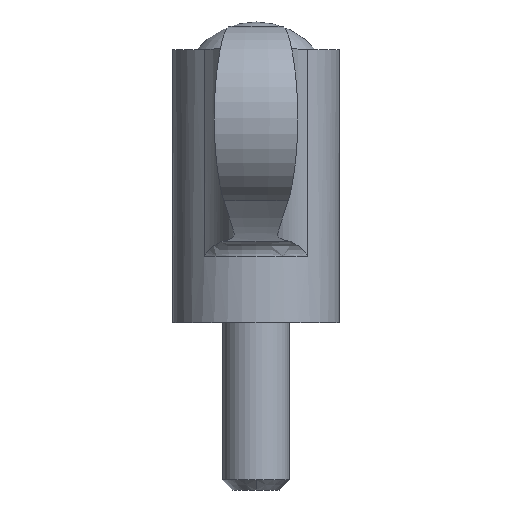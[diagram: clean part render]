
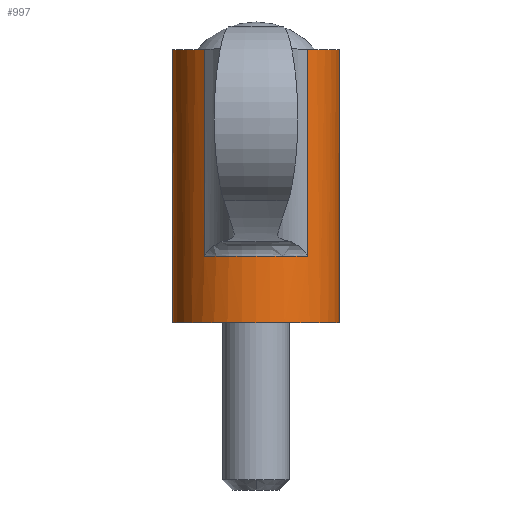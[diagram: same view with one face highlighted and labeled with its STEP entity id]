
A CAD part, left-side view. The second image highlights one B-rep face of the part: STEP entity #997.
In plain terms, the highlighted cylindrical face has radius 10 mm (diameter 20 mm), a partial arc.
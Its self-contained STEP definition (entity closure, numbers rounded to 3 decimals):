
#14 = CARTESIAN_POINT ( 'NONE',  ( 0., 10., 0. ) ) ;
#15 = ORIENTED_EDGE ( 'NONE', *, *, #443, .T. ) ;
#20 = VERTEX_POINT ( 'NONE', #14 ) ;
#31 = VECTOR ( 'NONE', #1305, 1000. ) ;
#66 = CARTESIAN_POINT ( 'NONE',  ( -7.872, 6.167, 8. ) ) ;
#96 = ORIENTED_EDGE ( 'NONE', *, *, #1558, .F. ) ;
#105 = DIRECTION ( 'NONE',  ( 0., 0., -1. ) ) ;
#139 = CARTESIAN_POINT ( 'NONE',  ( 0., 0., -2.331 ) ) ;
#162 = CARTESIAN_POINT ( 'NONE',  ( -7.872, -6.167, 32.697 ) ) ;
#179 = CIRCLE ( 'NONE', #1339, 10. ) ;
#226 = CARTESIAN_POINT ( 'NONE',  ( 0., -10., -2.331 ) ) ;
#350 = DIRECTION ( 'NONE',  ( 0., -1., 0. ) ) ;
#385 = CIRCLE ( 'NONE', #1740, 10. ) ;
#404 = VERTEX_POINT ( 'NONE', #947 ) ;
#419 = AXIS2_PLACEMENT_3D ( 'NONE', #1577, #105, #677 ) ;
#421 = CARTESIAN_POINT ( 'NONE',  ( -7.872, -6.167, -20. ) ) ;
#443 = EDGE_CURVE ( 'NONE', #612, #404, #1513, .T. ) ;
#484 = CIRCLE ( 'NONE', #1562, 10. ) ;
#548 = DIRECTION ( 'NONE',  ( 0., 0., 1. ) ) ;
#599 = AXIS2_PLACEMENT_3D ( 'NONE', #139, #1181, #1896 ) ;
#612 = VERTEX_POINT ( 'NONE', #66 ) ;
#649 = EDGE_CURVE ( 'NONE', #906, #982, #1287, .T. ) ;
#655 = CARTESIAN_POINT ( 'NONE',  ( 0., 0., 32.697 ) ) ;
#677 = DIRECTION ( 'NONE',  ( 0., -1., 0. ) ) ;
#681 = ORIENTED_EDGE ( 'NONE', *, *, #785, .T. ) ;
#727 = ORIENTED_EDGE ( 'NONE', *, *, #1580, .F. ) ;
#785 = EDGE_CURVE ( 'NONE', #1377, #20, #1588, .T. ) ;
#799 = DIRECTION ( 'NONE',  ( 0., 0., -1. ) ) ;
#836 = CARTESIAN_POINT ( 'NONE',  ( -7.872, -6.167, 8. ) ) ;
#848 = CARTESIAN_POINT ( 'NONE',  ( 0., 10., -2.331 ) ) ;
#870 = FACE_OUTER_BOUND ( 'NONE', #1484, .T. ) ;
#873 = EDGE_CURVE ( 'NONE', #906, #612, #484, .T. ) ;
#906 = VERTEX_POINT ( 'NONE', #836 ) ;
#908 = ORIENTED_EDGE ( 'NONE', *, *, #1638, .T. ) ;
#924 = CARTESIAN_POINT ( 'NONE',  ( 0., 0., 8. ) ) ;
#947 = CARTESIAN_POINT ( 'NONE',  ( -7.872, 6.167, 32.697 ) ) ;
#982 = VERTEX_POINT ( 'NONE', #162 ) ;
#997 = ADVANCED_FACE ( 'NONE', ( #870 ), #1452, .T. ) ;
#1074 = DIRECTION ( 'NONE',  ( 0., 0., -1. ) ) ;
#1181 = DIRECTION ( 'NONE',  ( 0., 0., -1. ) ) ;
#1189 = CARTESIAN_POINT ( 'NONE',  ( 0., -10., 32.697 ) ) ;
#1237 = ORIENTED_EDGE ( 'NONE', *, *, #1852, .T. ) ;
#1242 = DIRECTION ( 'NONE',  ( 0., 0., -1. ) ) ;
#1285 = CARTESIAN_POINT ( 'NONE',  ( 0., -10., 0. ) ) ;
#1287 = LINE ( 'NONE', #421, #1342 ) ;
#1305 = DIRECTION ( 'NONE',  ( 0., 0., -1. ) ) ;
#1339 = AXIS2_PLACEMENT_3D ( 'NONE', #655, #1074, #350 ) ;
#1342 = VECTOR ( 'NONE', #548, 1000. ) ;
#1377 = VERTEX_POINT ( 'NONE', #1639 ) ;
#1392 = DIRECTION ( 'NONE',  ( 0., 1., 0. ) ) ;
#1393 = CARTESIAN_POINT ( 'NONE',  ( 0., 0., 0. ) ) ;
#1401 = VECTOR ( 'NONE', #799, 1000. ) ;
#1409 = VERTEX_POINT ( 'NONE', #1189 ) ;
#1452 = CYLINDRICAL_SURFACE ( 'NONE', #599, 10. ) ;
#1484 = EDGE_LOOP ( 'NONE', ( #96, #908, #1610, #1746, #15, #1237, #681, #727 ) ) ;
#1513 = LINE ( 'NONE', #1828, #1743 ) ;
#1540 = DIRECTION ( 'NONE',  ( 0., 1., 0. ) ) ;
#1558 = EDGE_CURVE ( 'NONE', #1409, #1666, #1568, .T. ) ;
#1562 = AXIS2_PLACEMENT_3D ( 'NONE', #924, #1242, #1392 ) ;
#1568 = LINE ( 'NONE', #226, #1401 ) ;
#1577 = CARTESIAN_POINT ( 'NONE',  ( 0., 0., 32.697 ) ) ;
#1580 = EDGE_CURVE ( 'NONE', #1666, #20, #385, .T. ) ;
#1588 = LINE ( 'NONE', #848, #31 ) ;
#1610 = ORIENTED_EDGE ( 'NONE', *, *, #649, .F. ) ;
#1638 = EDGE_CURVE ( 'NONE', #1409, #982, #1646, .T. ) ;
#1639 = CARTESIAN_POINT ( 'NONE',  ( 0., 10., 32.697 ) ) ;
#1646 = CIRCLE ( 'NONE', #419, 10. ) ;
#1665 = DIRECTION ( 'NONE',  ( 0., 0., 1. ) ) ;
#1666 = VERTEX_POINT ( 'NONE', #1285 ) ;
#1740 = AXIS2_PLACEMENT_3D ( 'NONE', #1393, #1847, #1540 ) ;
#1743 = VECTOR ( 'NONE', #1665, 1000. ) ;
#1746 = ORIENTED_EDGE ( 'NONE', *, *, #873, .T. ) ;
#1828 = CARTESIAN_POINT ( 'NONE',  ( -7.872, 6.167, -20. ) ) ;
#1847 = DIRECTION ( 'NONE',  ( 0., 0., -1. ) ) ;
#1852 = EDGE_CURVE ( 'NONE', #404, #1377, #179, .T. ) ;
#1896 = DIRECTION ( 'NONE',  ( 0., 1., 0. ) ) ;
